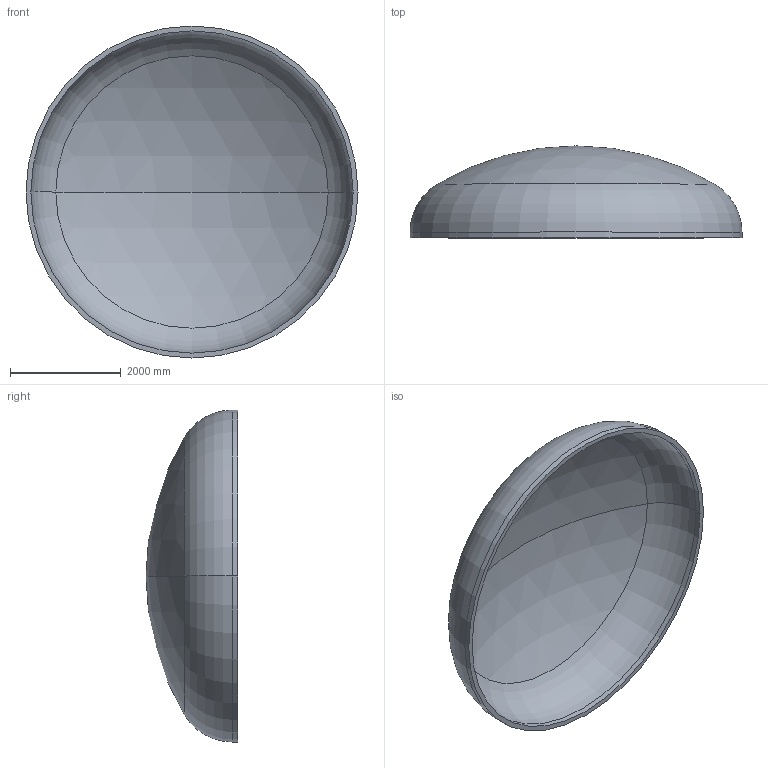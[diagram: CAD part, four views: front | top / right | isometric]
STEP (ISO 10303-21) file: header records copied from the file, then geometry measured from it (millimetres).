
FILE_DESCRIPTION (( 'STEP AP203' ), '1' );
FILE_NAME ('DIN 28013 Korbbogenform_-_Boden DIN 28013 - 6000 x 100 - I - s=88.step', '2016-07-04T10:38:27', ( '' ), ( '' ), 'SwSTEP 2.0', 'SolidWorks 2013', '' );
FILE_SCHEMA (( 'CONFIG_CONTROL_DESIGN' ));
Length unit declared in the file: millimetre
Products named in the file (1): DIN 28013 Korbbogenform_-_Boden DIN 28013 - 6000 x 100 - I - s=88
Bounding box: 6000 x 1661.22 x 6000 mm (x, y, z)
Volume: 3544090899.2 mm3; surface area: 82198141.6 mm2
Topology: 1 solids, 1 shells, 13 faces, 24 edges, 14 vertices
Faces by surface type: torus 4, cylinder 4, sphere 4, plane 1
Entity records: 407 total; most frequent: DIRECTION 72, CARTESIAN_POINT 52, ORIENTED_EDGE 48, AXIS2_PLACEMENT_3D 34, EDGE_CURVE 24, CIRCLE 20, VERTEX_POINT 14, EDGE_LOOP 14
